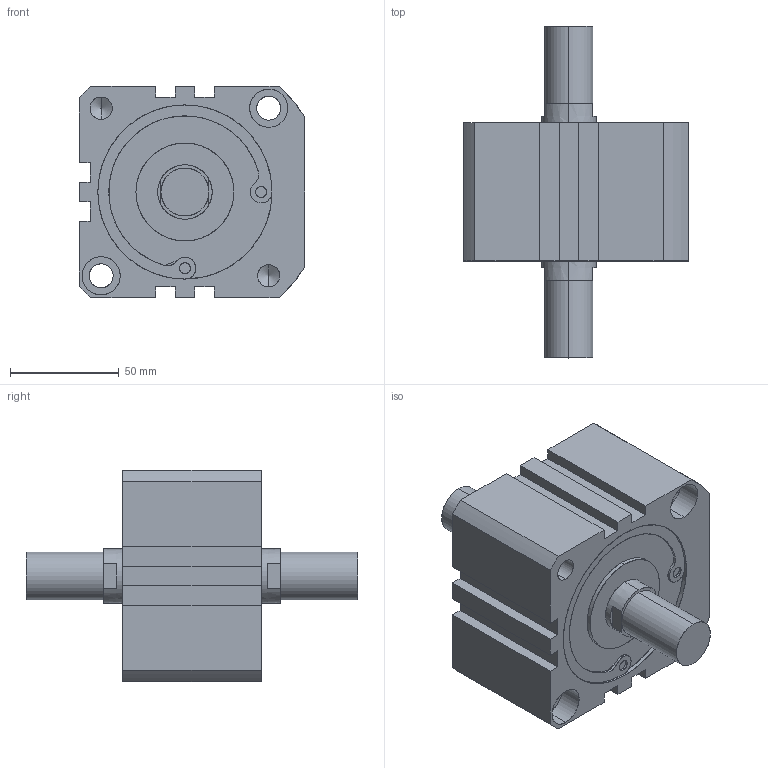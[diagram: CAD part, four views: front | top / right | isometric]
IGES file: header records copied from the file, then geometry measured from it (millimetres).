
Start section: SolidWorks IGES file using analytic representation for surfaces
Global section: file name: C:\Users\Toshiba\Desktop\XC#M7-80-10.IGS; native system: SolidWorks 2014; preprocessor: SolidWorks 2014; author: Toshiba; date: 160523.170457; units: millimetre
Bounding box: 103.5 x 152.5 x 97 mm (x, y, z)
Surface area: 65537.6 mm2 (no closed solid volume)
Topology: 0 solids, 0 shells, 142 faces, 2698 edges, 2694 vertices
Faces by surface type: revolution 82, bspline 60
